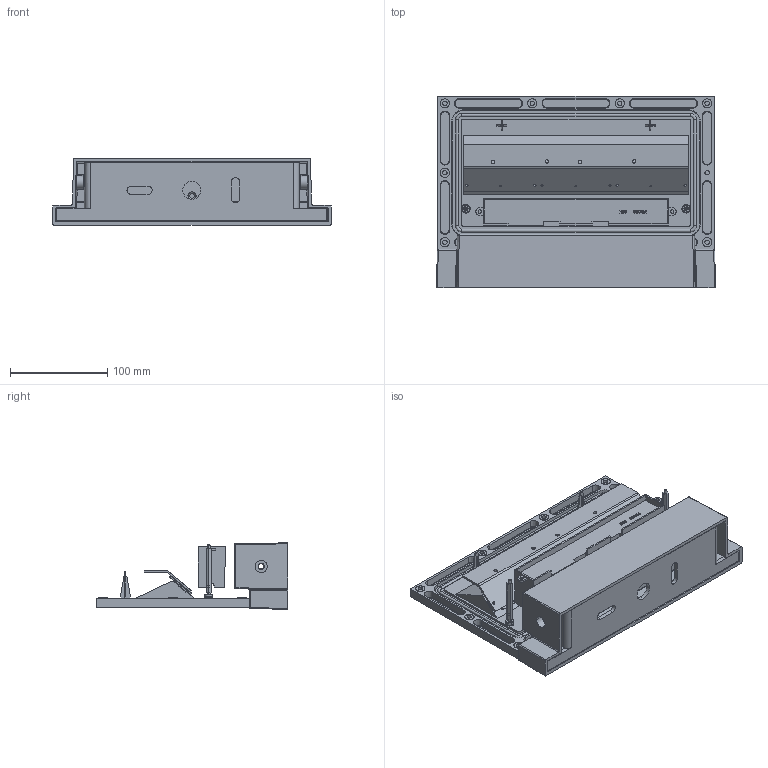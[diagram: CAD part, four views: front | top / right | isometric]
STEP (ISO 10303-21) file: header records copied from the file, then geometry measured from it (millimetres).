
FILE_DESCRIPTION((''),'2;1');
FILE_NAME('C7GKB1257_ASM','2024-11-23T',('C028'),(''),'CREO PARAMETRIC BY PTC INC, 2014190','CREO PARAMETRIC BY PTC INC, 2014190','');
FILE_SCHEMA(('CONFIG_CONTROL_DESIGN'));
Length unit declared in the file: millimetre
Products named in the file (22): DIZHUOHE002_1-6_2_1; XIAOZHIJIAN002-1-6_1_1; C7GKB1257-12-20_ASM_11_ASM_1_ASM; DENGTI002_39_10_1_1_1_1; MIANGAI002_18_2_1_1_1_1; BOLI002_7GK_22_1_1_1_1; FSQ_8_2_1_1_1_1; MOZHU001_2_20_7_1_1_1_1; AL_LUO_ZHU-2_4_1_1_1_1; SCREW_M3X10_1_1_1_1_1; 7GK-_1-7_1_1_1; 7GK-__1_2_1; 000_ASM_1_ASM_2_ASM_1_ASM; 000_ASM_ASM_1_ASM_1_ASM; 7GK-__4_1; XINLVJIBAN-00_1_8_1; LENS-00_45_1_3_1; C20_ASM_1_ASM_11_ASM_1_ASM; C7GKB1257_ASM_1_ASM_22_ASM_1_ASM; C3GKA1257_ASM_1_ASM; C7GKB1257__2022-1-6_ASM_1_ASM; C7GKB1257_ASM
Assembly tree (25 placements, depth 7):
  C7GKB1257_ASM
    C7GKB1257__2022-1-6_ASM_1_ASM
      C7GKB1257-12-20_ASM_11_ASM_1_ASM
        DIZHUOHE002_1-6_2_1
        XIAOZHIJIAN002-1-6_1_1
      C3GKA1257_ASM_1_ASM
        C7GKB1257_ASM_1_ASM_22_ASM_1_ASM
          DENGTI002_39_10_1_1_1_1
          MIANGAI002_18_2_1_1_1_1
          BOLI002_7GK_22_1_1_1_1
          FSQ_8_2_1_1_1_1
          MOZHU001_2_20_7_1_1_1_1
          AL_LUO_ZHU-2_4_1_1_1_1  x2
          SCREW_M3X10_1_1_1_1_1  x2
          000_ASM_ASM_1_ASM_1_ASM
            000_ASM_1_ASM_2_ASM_1_ASM
              7GK-_1-7_1_1_1
              7GK-__1_2_1
          7GK-__4_1
          C20_ASM_1_ASM_11_ASM_1_ASM
            XINLVJIBAN-00_1_8_1
            LENS-00_45_1_3_1  x3
Bounding box: 286.7 x 197.54 x 68.28 mm (x, y, z)
Volume: 595956.8 mm3; surface area: 467366.1 mm2
Topology: 17 solids, 17 shells, 1554 faces, 4152 edges, 2712 vertices
Faces by surface type: plane 1017, cylinder 336, cone 94, torus 42, sphere 28, bspline 28, extrusion 9
Entity records: 49128 total; most frequent: CARTESIAN_POINT 11810, ORIENTED_EDGE 7724, DIRECTION 7507, EDGE_CURVE 3862, VECTOR 2905, LINE 2902, VERTEX_POINT 2538, AXIS2_PLACEMENT_3D 2301
